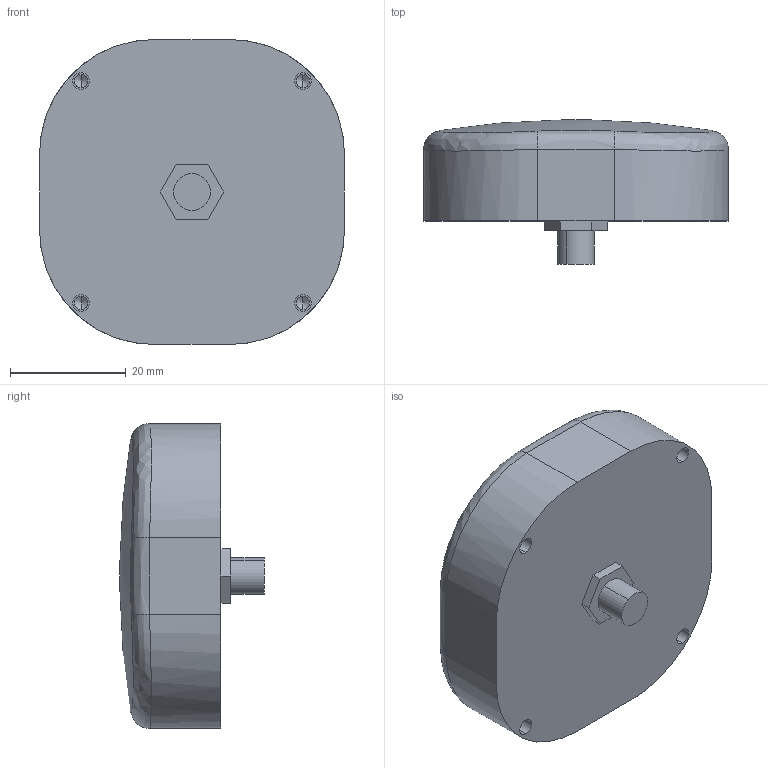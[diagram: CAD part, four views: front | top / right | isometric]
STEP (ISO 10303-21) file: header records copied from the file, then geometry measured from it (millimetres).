
FILE_DESCRIPTION (( 'STEP AP214' ), '1' );
FILE_NAME ('0200-0029-SQ-ANT-GNSS-2.STEP', '2019-04-16T14:13:29', ( '' ), ( '' ), 'SwSTEP 2.0', 'SolidWorks 2013', '' );
FILE_SCHEMA (( 'AUTOMOTIVE_DESIGN' ));
Length unit declared in the file: inch
Products named in the file (3): 0200-0029-SQ-ANT-GNSS-2; SMA  Jack; GPS Patch Antenna
Assembly tree (2 placements, depth 2):
  0200-0029-SQ-ANT-GNSS-2
    GPS Patch Antenna
    SMA  Jack
Bounding box: 52.78 x 25.02 x 52.78 mm (x, y, z)
Volume: 39697.8 mm3; surface area: 7894.1 mm2
Topology: 2 solids, 2 shells, 57 faces, 128 edges, 76 vertices
Faces by surface type: cylinder 22, plane 18, bspline 9, cone 8
Entity records: 2962 total; most frequent: CARTESIAN_POINT 889, DIRECTION 266, ORIENTED_EDGE 240, EDGE_CURVE 120, AXIS2_PLACEMENT_3D 105, VERTEX_POINT 76, EDGE_LOOP 66, UNCERTAINTY_MEASURE_WITH_UNIT 64
